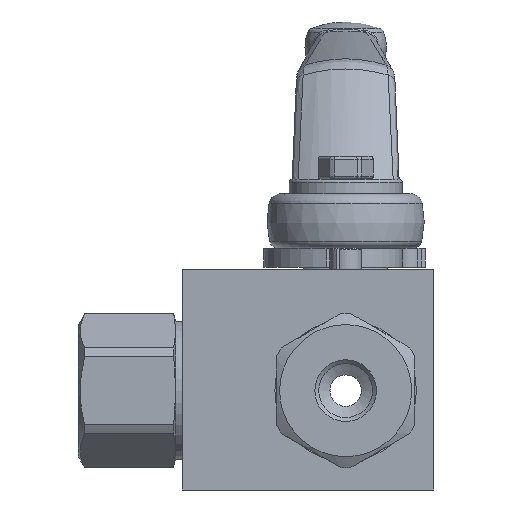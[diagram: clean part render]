
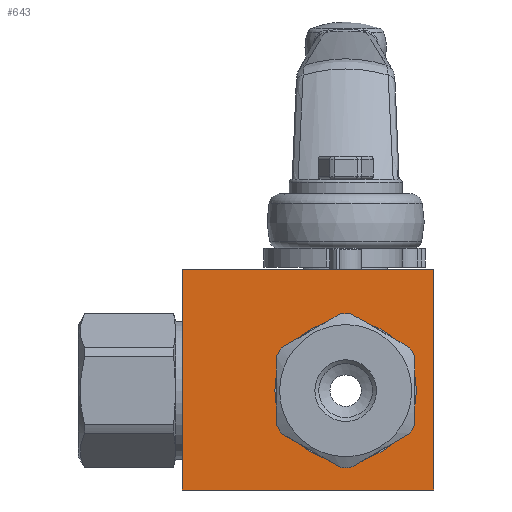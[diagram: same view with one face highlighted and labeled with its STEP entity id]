
A CAD part, front view. The second image highlights one B-rep face of the part: STEP entity #643.
In plain terms, the highlighted planar face has unit normal (0, -1, 0).
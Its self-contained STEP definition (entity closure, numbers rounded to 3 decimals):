
#643 = ADVANCED_FACE( '', ( #1479, #1480 ), #1481, .T. );
#1479 = FACE_OUTER_BOUND( '', #2697, .T. );
#1480 = FACE_BOUND( '', #2698, .T. );
#1481 = PLANE( '', #2699 );
#2697 = EDGE_LOOP( '', ( #5002, #5003, #5004, #5005 ) );
#2698 = EDGE_LOOP( '', ( #5006 ) );
#2699 = AXIS2_PLACEMENT_3D( '', #5007, #5008, #5009 );
#5002 = ORIENTED_EDGE( '', *, *, #7817, .T. );
#5003 = ORIENTED_EDGE( '', *, *, #7818, .T. );
#5004 = ORIENTED_EDGE( '', *, *, #7819, .T. );
#5005 = ORIENTED_EDGE( '', *, *, #7820, .T. );
#5006 = ORIENTED_EDGE( '', *, *, #7821, .T. );
#5007 = CARTESIAN_POINT( '', ( -26., -17.5, -15.8 ) );
#5008 = DIRECTION( '', ( 0., -1., 0. ) );
#5009 = DIRECTION( '', ( 0., 0., -1. ) );
#7817 = EDGE_CURVE( '', #9078, #9079, #9080, .T. );
#7818 = EDGE_CURVE( '', #9079, #9081, #9082, .T. );
#7819 = EDGE_CURVE( '', #9081, #9083, #9084, .T. );
#7820 = EDGE_CURVE( '', #9083, #9078, #9085, .T. );
#7821 = EDGE_CURVE( '', #9086, #9086, #9087, .T. );
#9078 = VERTEX_POINT( '', #10958 );
#9079 = VERTEX_POINT( '', #10959 );
#9080 = LINE( '', #10960, #10961 );
#9081 = VERTEX_POINT( '', #10962 );
#9082 = LINE( '', #10963, #10964 );
#9083 = VERTEX_POINT( '', #10965 );
#9084 = LINE( '', #10966, #10967 );
#9085 = LINE( '', #10968, #10969 );
#9086 = VERTEX_POINT( '', #10970 );
#9087 = CIRCLE( '', #10971, 11.25 );
#10958 = CARTESIAN_POINT( '', ( -26., -17.5, 19.2 ) );
#10959 = CARTESIAN_POINT( '', ( -26., -17.5, -15.8 ) );
#10960 = CARTESIAN_POINT( '', ( -26., -17.5, 19.2 ) );
#10961 = VECTOR( '', #14264, 1000. );
#10962 = CARTESIAN_POINT( '', ( 14., -17.5, -15.8 ) );
#10963 = CARTESIAN_POINT( '', ( -26., -17.5, -15.8 ) );
#10964 = VECTOR( '', #14265, 1000. );
#10965 = CARTESIAN_POINT( '', ( 14., -17.5, 19.2 ) );
#10966 = CARTESIAN_POINT( '', ( 14., -17.5, -15.8 ) );
#10967 = VECTOR( '', #14266, 1000. );
#10968 = CARTESIAN_POINT( '', ( 14., -17.5, 19.2 ) );
#10969 = VECTOR( '', #14267, 1000. );
#10970 = CARTESIAN_POINT( '', ( 11.25, -17.5, 0. ) );
#10971 = AXIS2_PLACEMENT_3D( '', #14268, #14269, #14270 );
#14264 = DIRECTION( '', ( 0., 0., -1. ) );
#14265 = DIRECTION( '', ( 1., 0., 0. ) );
#14266 = DIRECTION( '', ( 0., 0., 1. ) );
#14267 = DIRECTION( '', ( -1., 0., 0. ) );
#14268 = CARTESIAN_POINT( '', ( 0., -17.5, 0. ) );
#14269 = DIRECTION( '', ( 0., 1., 0. ) );
#14270 = DIRECTION( '', ( 1., 0., 0. ) );
